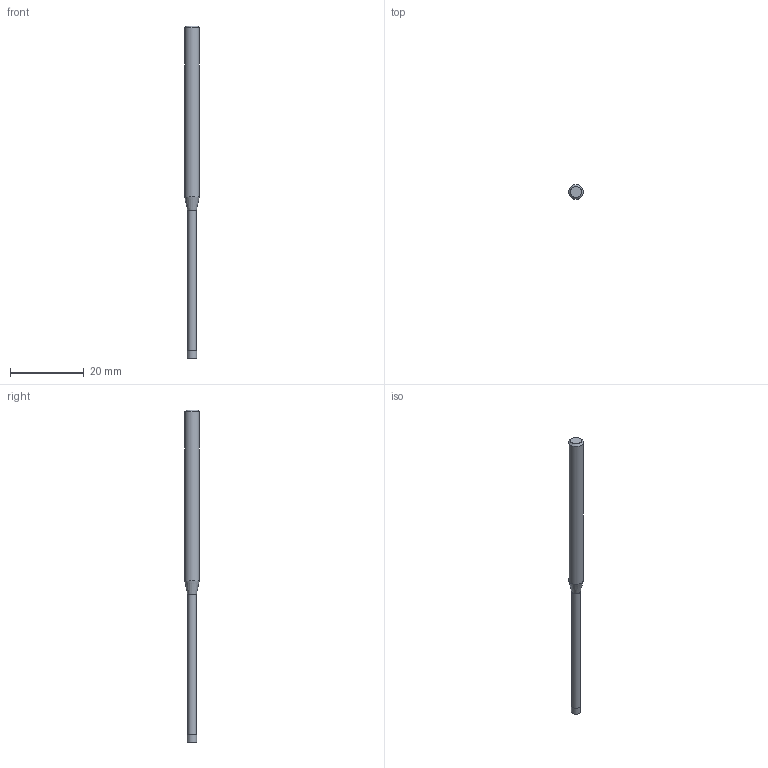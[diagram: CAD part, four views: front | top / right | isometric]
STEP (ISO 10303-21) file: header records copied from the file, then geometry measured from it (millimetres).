
FILE_DESCRIPTION((''),'2;1');
FILE_NAME('C:\Users\nsx150\AppData\Local\Temp\Mastercam 2021\RJ5U8K7RMU\TEMP.step','2021-04-21T16:42:36',(''),(''),'STEP Write','Mastercam 2021 ... CNC Software, Inc.','');
FILE_SCHEMA(('AUTOMOTIVE_DESIGN'));
Length unit declared in the file: millimetre
Products named in the file (1): None
Bounding box: 4 x 4 x 90 mm (x, y, z)
Volume: 792.2 mm3; surface area: 944.8 mm2
Topology: 2 solids, 2 shells, 9 faces, 12 edges, 7 vertices
Faces by surface type: plane 4, cylinder 3, cone 2
Full cylindrical faces by diameter (mm): 2.4 x1, 2.5 x1, 4 x1
Entity records: 211 total; most frequent: DIRECTION 36, CARTESIAN_POINT 25, AXIS2_PLACEMENT_3D 18, ORIENTED_EDGE 14, EDGE_LOOP 14, STYLED_ITEM 12, ADVANCED_FACE 9, FACE_BOUND 8
